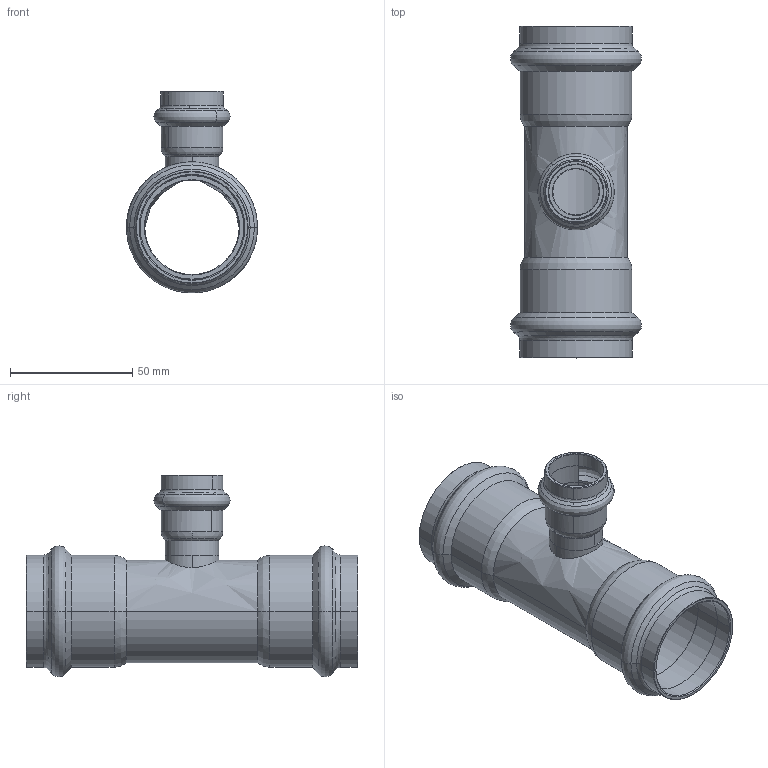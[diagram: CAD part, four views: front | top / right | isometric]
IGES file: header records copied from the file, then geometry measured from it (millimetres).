
Start section: Elysium IGES Interface
Global section: file name: C:\Users\Wallenburg\Desktop\3d modellen sudo\S-Pr VP\SP6130RV\6130RVW422242.igs; native system: CoCreate Modeling 17.00A  17-Jun-2010; preprocessor: CoCreate IGES_3D V2.2; author: Unknown; organization: Unknown; date: 20130117.141105; units: millimetre
Bounding box: 53.61 x 135.73 x 82.5 mm (x, y, z)
Volume: 44344.7 mm3; surface area: 44172 mm2
Topology: 1 solids, 1 shells, 128 faces, 288 edges, 164 vertices
Faces by surface type: bspline 128
